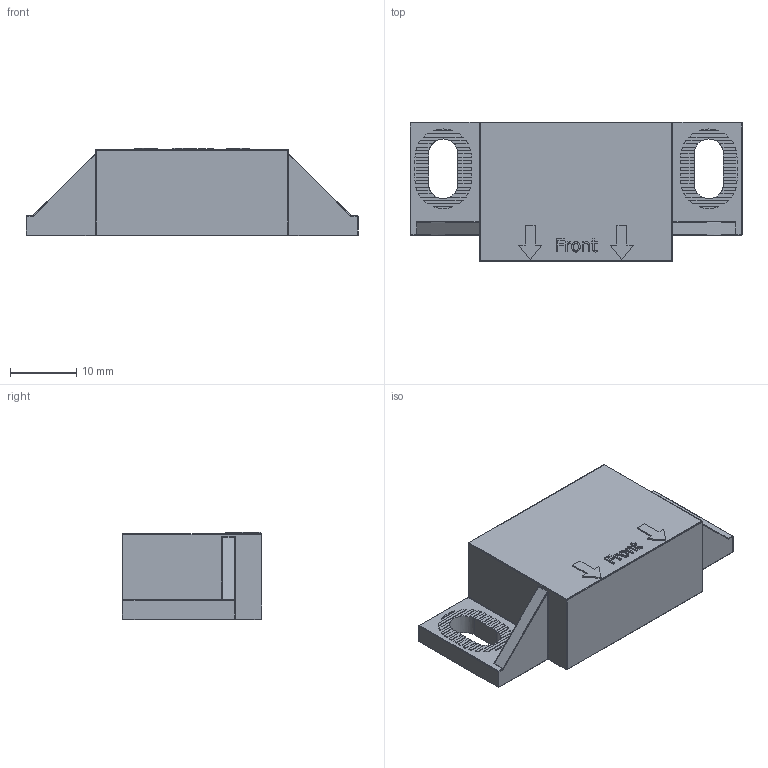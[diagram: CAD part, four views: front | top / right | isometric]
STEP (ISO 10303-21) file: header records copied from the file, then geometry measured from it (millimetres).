
FILE_DESCRIPTION((''),'2;1');
FILE_NAME('6470.25-27.stp','2023-10-12T13:02:08',(''),(''),'Mechanical Desktop 2006','Mechanical Desktop 2006',', , ');
FILE_SCHEMA(('CONFIG_CONTROL_DESIGN'));
Length unit declared in the file: millimetre
Products named in the file (6): 6470.25-27; 1AA; 2A; 1A; 1; 2
Assembly tree (2 placements, depth 2):
  6470.25-27
    1AA
    2A
  1A
  1
  2
Bounding box: 50 x 21 x 13.2 mm (x, y, z)
Volume: 8858.9 mm3; surface area: 6802.1 mm2
Topology: 2 solids, 2 shells, 405 faces, 1099 edges, 702 vertices
Faces by surface type: plane 146, bspline 135, cylinder 104, sphere 14, torus 6
Entity records: 14058 total; most frequent: CARTESIAN_POINT 3846, ORIENTED_EDGE 2160, DIRECTION 1883, EDGE_CURVE 1080, VECTOR 745, LINE 745, VERTEX_POINT 696, AXIS2_PLACEMENT_3D 569
